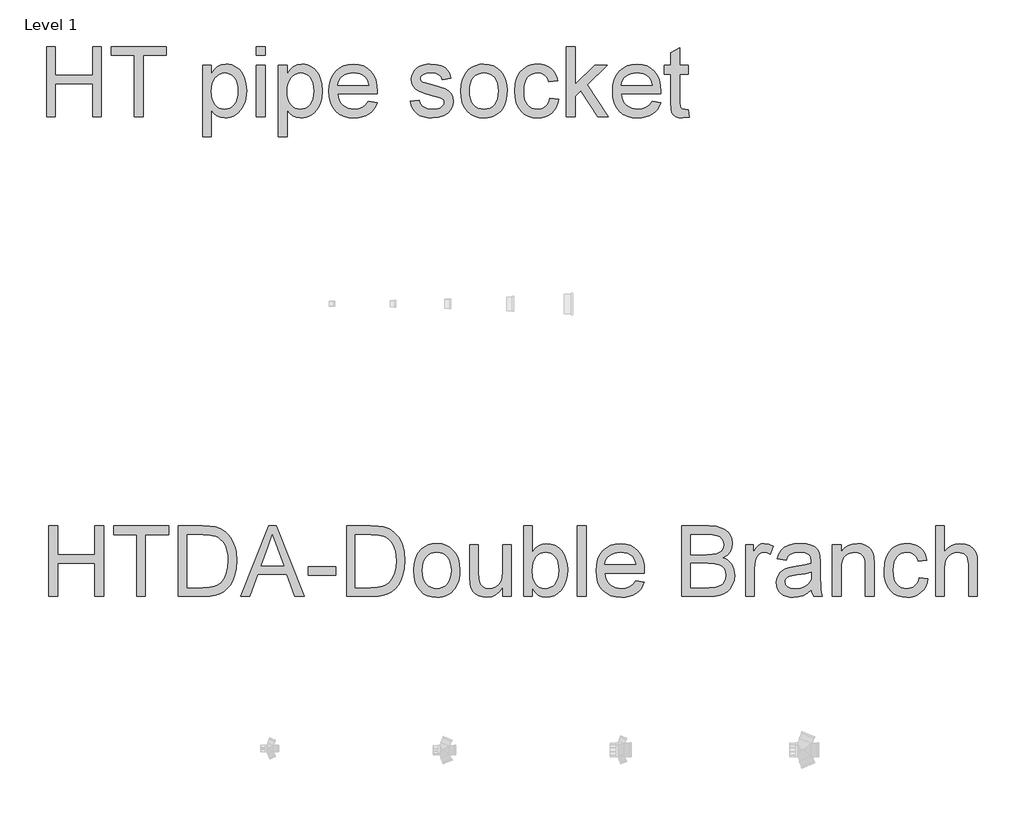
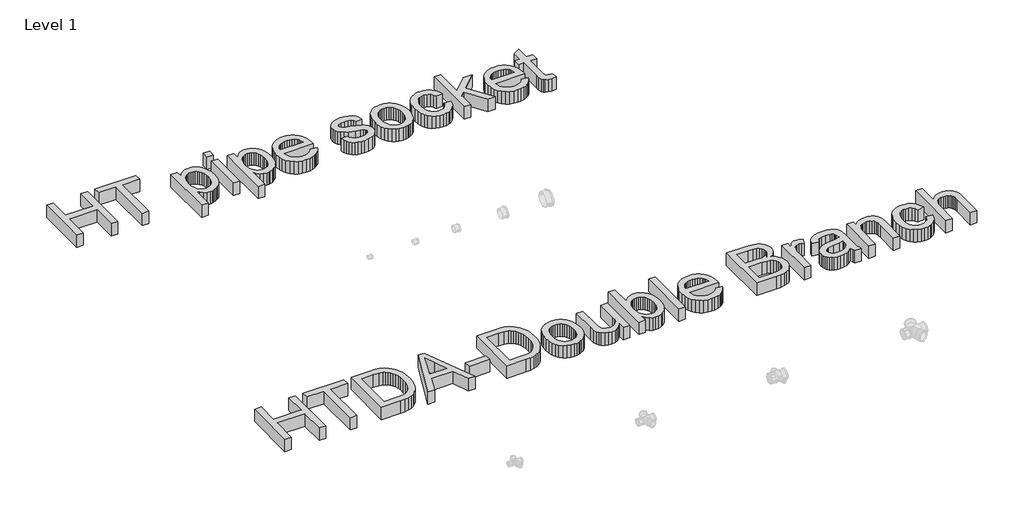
# One storey, part 14 of 29: 2 proxies.
"""IFC4 building model written with IfcOpenShell, lengths in millimetres."""

from ifc_helpers import new_model, si_unit, origin, origin_with_axes, place, context, project, spatial, polyline, outline, extrude, element, save

model = new_model("IFC4")

# Units and contexts
model_context = context("Model", 3, world=origin())
ifc_project = project(units=[si_unit("LENGTHUNIT", "METRE", prefix="MILLI")], contexts=[model_context])

# Site, building, storey
site = spatial("IfcSite", under=ifc_project)
building = spatial("IfcBuilding", under=site)
storey = spatial("IfcBuildingStorey", under=building, Name="Level 1", Elevation=0.0)

# Proxies
placement = place(None, origin())
element("IfcBuildingElementProxy", 1, Name="600mm Arial", ObjectType="600mm Arial", at=placement, inside=storey, context=model_context, shape_type="SweptSolid", body=[
    extrude(outline(polyline([(14780.4836109, -10119.7853058), (14780.4836109, -9517.0474449), (14855.8258435, -9517.0474449), (14855.8258435, -9761.9097009), (15176.0303321, -9761.9097009), (15176.0303321, -9517.0474449), (15251.3725647, -9517.0474449), (15251.3725647, -10119.7853058), (15176.0303321, -10119.7853058), (15176.0303321, -9837.2519335), (14855.8258435, -9837.2519335), (14855.8258435, -10119.7853058), (14780.4836109, -10119.7853058)])), origin_with_axes(), (0.0, 0.0, 1.0), 150.0),
    extrude(outline(polyline([(15533.905937, -10119.7853058), (15533.905937, -9592.3896775), (15336.1325764, -9592.3896775), (15336.1325764, -9517.0474449), (15807.0215302, -9517.0474449), (15807.0215302, -9592.3896775), (15609.2481696, -9592.3896775), (15609.2481696, -10119.7853058), (15533.905937, -10119.7853058)])), origin_with_axes(), (0.0, 0.0, 1.0), 150.0),
    extrude(outline(polyline([(16117.8082398, -10289.3053292), (16117.8082398, -9677.1496892), (16193.1504724, -9677.1496892), (16193.1504724, -9751.0203939), (16217.7249896, -9714.5816822), (16245.2425629, -9688.5540311), (16277.3218729, -9672.9374404), (16315.5816004, -9667.7319102), (16341.8575719, -9669.552926), (16366.5332567, -9675.0159737), (16389.6086548, -9684.121053), (16411.0837663, -9696.8681642), (16430.4895416, -9712.9262133), (16447.356931, -9731.9641065), (16461.6859347, -9753.9818439), (16473.4765527, -9778.9794255), (16489.2586903, -9834.4928186), (16494.5194028, -9895.0829832), (16488.5781086, -9959.5175146), (16481.1514908, -9989.182599), (16470.7542259, -10017.1462292), (16457.5288682, -10042.6772396), (16441.6179719, -10065.044465), (16423.0215371, -10084.2479051), (16401.7395636, -10100.2875601), (16378.8159168, -10112.9381022), (16355.2944617, -10121.9742037), (16331.1751984, -10127.3958646), (16306.4581269, -10129.2030849), (16271.822037, -10124.3654367), (16240.9015553, -10109.852492), (16214.4324458, -10087.9451192), (16193.1504724, -10060.9241866), (16193.1504724, -10289.3053292), (16117.8082398, -10289.3053292)]), holes=[polyline([(16193.1504724, -9901.9991647), (16195.1876189, -9938.3091176), (16201.2990586, -9969.542299), (16211.4847913, -9995.6987089), (16225.7448171, -10016.7783472), (16242.9111107, -10033.0019432), (16261.8156468, -10044.590226), (16282.4584252, -10051.5431957), (16304.8394461, -10053.8608523), (16327.5423637, -10051.4604223), (16348.5622212, -10044.2591322), (16367.8990186, -10032.2569821), (16385.5527558, -10015.453972), (16400.2634371, -9993.6109785), (16410.7710666, -9966.4888784), (16417.0756443, -9934.0876717), (16419.1771702, -9896.4073584), (16417.1262281, -9860.4101051), (16410.9734017, -9829.232106), (16400.7186911, -9802.8733611), (16386.3620962, -9781.3338703), (16369.1544159, -9764.5952395), (16350.3464489, -9752.6390746), (16329.9381952, -9745.4653757), (16307.9296549, -9743.0741428), (16285.9900924, -9745.6171271), (16265.3473139, -9753.2460799), (16246.0013195, -9765.9610014), (16227.9521091, -9783.7618914), (16212.726393, -9806.4096268), (16201.8508816, -9833.6650841), (16195.3255747, -9865.5282634), (16193.1504724, -9901.9991647)])]), origin_with_axes(), (0.0, 0.0, 1.0), 150.0),
    extrude(outline(polyline([(16579.2794145, -9592.3896775), (16579.2794145, -9517.0474449), (16654.6216471, -9517.0474449), (16654.6216471, -9592.3896775), (16579.2794145, -9592.3896775)])), origin_with_axes(), (0.0, 0.0, 1.0), 150.0),
    extrude(outline(polyline([(16579.2794145, -10119.7853058), (16579.2794145, -9677.1496892), (16654.6216471, -9677.1496892), (16654.6216471, -10119.7853058), (16579.2794145, -10119.7853058)])), origin_with_axes(), (0.0, 0.0, 1.0), 150.0),
    extrude(outline(polyline([(16767.634996, -10289.3053292), (16767.634996, -9677.1496892), (16842.9772286, -9677.1496892), (16842.9772286, -9751.0203939), (16867.5517459, -9714.5816822), (16895.0693192, -9688.5540311), (16927.1486291, -9672.9374404), (16965.4083566, -9667.7319102), (16991.6843281, -9669.552926), (17016.360013, -9675.0159737), (17039.4354111, -9684.121053), (17060.9105226, -9696.8681642), (17080.3162978, -9712.9262133), (17097.1836873, -9731.9641065), (17111.512691, -9753.9818439), (17123.303309, -9778.9794255), (17139.0854466, -9834.4928186), (17144.3461591, -9895.0829832), (17138.4048649, -9959.5175146), (17130.9782471, -9989.182599), (17120.5809822, -10017.1462292), (17107.3556245, -10042.6772396), (17091.4447282, -10065.044465), (17072.8482933, -10084.2479051), (17051.5663199, -10100.2875601), (17028.6426731, -10112.9381022), (17005.121218, -10121.9742037), (16981.0019547, -10127.3958646), (16956.2848832, -10129.2030849), (16921.6487933, -10124.3654367), (16890.7283116, -10109.852492), (16864.2592021, -10087.9451192), (16842.9772286, -10060.9241866), (16842.9772286, -10289.3053292), (16767.634996, -10289.3053292)]), holes=[polyline([(16842.9772286, -9901.9991647), (16845.0143752, -9938.3091176), (16851.1258148, -9969.542299), (16861.3115476, -9995.6987089), (16875.5715734, -10016.7783472), (16892.737867, -10033.0019432), (16911.642403, -10044.590226), (16932.2851815, -10051.5431957), (16954.6662024, -10053.8608523), (16977.36912, -10051.4604223), (16998.3889775, -10044.2591322), (17017.7257749, -10032.2569821), (17035.3795121, -10015.453972), (17050.0901934, -9993.6109785), (17060.5978229, -9966.4888784), (17066.9024006, -9934.0876717), (17069.0039265, -9896.4073584), (17066.9529844, -9860.4101051), (17060.800158, -9829.232106), (17050.5454474, -9802.8733611), (17036.1888525, -9781.3338703), (17018.9811722, -9764.5952395), (17000.1732052, -9752.6390746), (16979.7649515, -9745.4653757), (16957.7564111, -9743.0741428), (16935.8168487, -9745.6171271), (16915.1740702, -9753.2460799), (16895.8280758, -9765.9610014), (16877.7788654, -9783.7618914), (16862.5531493, -9806.4096268), (16851.6776378, -9833.6650841), (16845.1523309, -9865.5282634), (16842.9772286, -9901.9991647)])]), origin_with_axes(), (0.0, 0.0, 1.0), 150.0),
    extrude(outline(polyline([(17539.0099635, -9987.9363988), (17612.8806682, -9997.3541778), (17601.5545012, -10026.9410873), (17586.2644058, -10053.0147237), (17567.0103819, -10075.5750871), (17543.7924295, -10094.6221774), (17516.8496718, -10109.7513244), (17486.4212323, -10120.557858), (17452.5071109, -10127.0417782), (17415.1073075, -10129.2030849), (17368.358703, -10125.4736812), (17326.7052641, -10114.28547), (17290.1469908, -10095.6384514), (17258.6838832, -10069.5326253), (17233.382799, -10036.6945587), (17215.310596, -9997.8508185), (17204.4672742, -9953.0014048), (17200.8528336, -9902.1463175), (17204.5040624, -9849.5667833), (17215.4577488, -9803.222849), (17233.7138928, -9763.1145145), (17259.2724944, -9729.2417798), (17290.6528286, -9702.3312118), (17326.3741703, -9683.1093776), (17366.4365196, -9671.576277), (17410.8398764, -9667.7319102), (17453.813092, -9671.56708), (17492.6752262, -9683.0725894), (17527.4262792, -9702.2484384), (17558.0662509, -9729.094627), (17583.077628, -9762.8937853), (17600.9428974, -9802.9285434), (17611.662059, -9849.1989013), (17615.2351129, -9901.7048591), (17614.7936545, -9922.0119452), (17276.1950662, -9922.0119452), (17280.5590663, -9952.0771013), (17289.2364829, -9978.4082551), (17302.2273159, -10001.0054066), (17319.5315652, -10019.8685559), (17340.1927378, -10034.7401856), (17363.2543403, -10045.3627782), (17388.7163729, -10051.7363338), (17416.5788355, -10053.8608523), (17456.677973, -10049.9245149), (17490.4495402, -10038.1155029), (17517.893537, -10017.6980522), (17539.0099635, -9987.9363988)]), holes=[polyline([(17276.1950662, -9846.6697126), (17539.8928803, -9846.6697126), (17529.702549, -9806.8648807), (17520.9377605, -9791.2115018), (17509.7265567, -9778.3908143), (17489.1803473, -9762.9397705), (17465.8014465, -9751.9033107), (17439.5898543, -9745.2814347), (17410.5455708, -9743.0741428), (17384.0534686, -9744.8353778), (17359.7594614, -9750.119083), (17337.663549, -9758.9252582), (17317.7657316, -9771.2539036), (17301.0684876, -9786.534802), (17288.5742953, -9804.1977363), (17280.2831548, -9824.2427065), (17276.1950662, -9846.6697126)])]), origin_with_axes(), (0.0, 0.0, 1.0), 150.0),
    extrude(outline(polyline([(17897.7684852, -9987.9363988), (17973.1107178, -9978.5186197), (17977.6632575, -9995.6987089), (17984.9933063, -10010.7450825), (17995.1008641, -10023.6577405), (18007.985931, -10034.436683), (18023.6852951, -10042.934757), (18042.2357447, -10049.00481), (18087.8899003, -10053.8608523), (18132.9922329, -10049.4094802), (18150.52181, -10043.845265), (18164.7036609, -10036.0553637), (18183.4656427, -10016.7047708), (18188.1561381, -10005.870646), (18189.7196366, -9994.2639691), (18188.1469411, -9984.0920319), (18183.4288545, -9975.0605289), (18164.5565081, -9960.4188255), (18136.3399591, -9950.8538936), (18087.0069835, -9938.934517), (18018.2498386, -9919.0504952), (17973.5521762, -9902.0727411), (17944.8389865, -9883.5498826), (17924.0352597, -9859.0305477), (17911.3985131, -9830.0782346), (17907.1862643, -9798.256442), (17910.5707787, -9769.0650057), (17920.7243217, -9742.1176496), (17936.7271885, -9718.4812314), (17957.659674, -9699.2226089), (17978.4634009, -9687.1008972), (18005.5579098, -9676.92896), (18036.8830617, -9670.0311726), (18070.3787174, -9667.7319102), (18119.4173873, -9671.4291242), (18162.0549106, -9682.5207664), (18196.3415125, -9699.9215847), (18220.3274186, -9722.5463274), (18236.2199208, -9752.0688576), (18246.226311, -9790.1630382), (18170.8840784, -9799.5808172), (18161.3743289, -9775.8708226), (18142.5571648, -9758.0101518), (18114.2486453, -9746.808145), (18076.2648293, -9743.0741428), (18033.0019066, -9746.6425981), (18004.1599582, -9757.3479642), (17987.9363622, -9772.799008), (17982.5284969, -9790.6044965), (17984.7725771, -9802.1927794), (17991.5048176, -9812.5302635), (18003.019524, -9821.7641015), (18019.611002, -9829.1585296), (18084.505386, -9845.1981846), (18195.0907137, -9880.662009), (18224.3005441, -9897.6213689), (18246.4470402, -9920.8347228), (18260.408162, -9950.3756471), (18265.0618692, -9986.317718), (18259.5988216, -10023.4737995), (18243.2096787, -10058.422589), (18216.5198399, -10088.4233657), (18180.1547047, -10110.7354088), (18136.2295945, -10124.5861659), (18086.8598307, -10129.2030849), (18046.3100378, -10126.9773988), (18010.8921987, -10120.3003406), (17980.6063135, -10109.1719103), (17955.4523821, -10093.5921078), (17934.9061726, -10073.6345095), (17918.4434533, -10049.372692), (17906.0642242, -10020.806655), (17897.7684852, -9987.9363988)])), origin_with_axes(), (0.0, 0.0, 1.0), 150.0),
    extrude(outline(polyline([(18330.9863227, -9898.4674975), (18335.0606158, -9841.1422856), (18347.2834951, -9791.7449307), (18367.6549606, -9750.2754328), (18396.1750123, -9716.7337919), (18424.888202, -9695.2954686), (18456.5812359, -9679.9823806), (18491.2541139, -9670.7945278), (18528.9068361, -9667.7319102), (18570.4729031, -9671.4613139), (18608.0566474, -9682.6495251), (18641.6580691, -9701.2965437), (18671.2771683, -9727.4023698), (18695.4516139, -9760.0840865), (18712.719075, -9798.4587771), (18723.0795517, -9842.5264416), (18726.533044, -9892.28708), (18725.0063337, -9932.6161437), (18720.4262028, -9968.4018648), (18712.7926514, -9999.6442433), (18702.1056795, -10026.3432791), (18688.4986442, -10049.4048816), (18672.1049028, -10069.7349604), (18652.9244552, -10087.3335153), (18630.9573016, -10102.2005465), (18607.0587675, -10114.014157), (18582.0841785, -10122.4524503), (18556.0335348, -10127.5154263), (18528.9068361, -10129.2030849), (18486.7337639, -10125.4874768), (18448.8005317, -10114.3406523), (18415.1071395, -10095.7626115), (18385.6535872, -10069.7533545), (18361.736659, -10036.7543395), (18344.6531389, -9997.207025), (18334.4030268, -9951.111411), (18330.9863227, -9898.4674975)]), holes=[polyline([(18406.3285554, -9898.3203447), (18408.5082562, -9934.8648224), (18415.0473586, -9966.5072725), (18425.9458627, -9993.2476951), (18441.2037685, -10015.08609), (18459.7634151, -10032.0500485), (18480.567142, -10044.1671617), (18503.614949, -10051.4374297), (18528.9068361, -10053.8608523), (18554.0699646, -10051.4236341), (18577.0258011, -10044.1119794), (18597.7743456, -10031.9258883), (18616.3155982, -10014.8653608), (18631.5735039, -9992.8108352), (18642.4720081, -9965.6427499), (18649.0111105, -9933.3611048), (18651.1908113, -9895.9659), (18648.9973149, -9860.5802506), (18642.4168258, -9829.7655349), (18631.4493438, -9803.5217531), (18616.094869, -9781.8489051), (18597.4846386, -9764.8849466), (18576.7498896, -9752.7678333), (18553.8906221, -9745.4975654), (18528.9068361, -9743.0741428), (18503.614949, -9745.4883684), (18480.567142, -9752.7310451), (18459.7634151, -9764.8021731), (18441.2037685, -9781.7017523), (18425.9458627, -9803.4757679), (18415.0473586, -9830.1702051), (18408.5082562, -9861.7850641), (18406.3285554, -9898.3203447)])]), origin_with_axes(), (0.0, 0.0, 1.0), 150.0),
    extrude(outline(polyline([(19093.8264279, -9959.6830615), (19169.1686605, -9969.1008406), (19160.9740891, -10004.6520369), (19148.1625986, -10036.110546), (19130.7341891, -10063.4763679), (19108.6888605, -10086.7495027), (19082.955515, -10105.3229449), (19054.4630545, -10118.5896893), (19023.211479, -10126.549736), (18989.2007885, -10129.2030849), (18946.9449428, -10125.5012723), (18909.0576959, -10114.3958346), (18875.5390476, -10095.8867717), (18846.388998, -10069.9740837), (18822.7939665, -10037.1452141), (18805.9403726, -9997.8876067), (18795.8282163, -9952.2012615), (18792.4574975, -9900.0861783), (18798.2148507, -9833.0396847), (18805.4115422, -9802.8687626), (18815.4869104, -9774.9327236), (18828.509933, -9749.7925877), (18844.549588, -9728.0093751), (18863.6058754, -9709.5830856), (18885.6787951, -9694.5137194), (18909.7704672, -9682.7966779), (18934.8830119, -9674.4273625), (18961.0164292, -9669.4057732), (18988.1707189, -9667.7319102), (19021.5973967, -9670.0311726), (19051.8326982, -9676.92896), (19078.8766234, -9688.4252724), (19102.7291722, -9704.5201097), (19122.9856746, -9724.8455899), (19139.2414602, -9749.0338311), (19151.4965292, -9777.0848332), (19159.7508815, -9808.9985963), (19084.4086489, -9818.4163754), (19070.7418327, -9785.5461191), (19049.4598593, -9761.9832773), (19021.739951, -9747.8014264), (18988.7593301, -9743.0741428), (18963.1593418, -9745.4009964), (18940.0701481, -9752.3815573), (18919.4917489, -9764.0158253), (18901.4241445, -9780.3038007), (18886.7134632, -9801.6225623), (18876.2058337, -9828.3491893), (18869.901256, -9860.4836815), (18867.7997301, -9898.0260391), (18869.8552707, -9936.1340153), (18876.0218927, -9968.6409881), (18886.2995959, -9995.5469575), (18900.6883805, -10016.8519236), (18918.3973, -10033.0433299), (18938.6354083, -10044.6086201), (18961.4027052, -10051.5477943), (18986.6991909, -10053.8608523), (19025.7130765, -10048.085105), (19042.5850645, -10040.8654208), (19057.700416, -10030.757863), (19070.6360667, -10017.6520669), (19080.9689522, -10001.437668), (19088.6990726, -9982.1146662), (19093.8264279, -9959.6830615)])), origin_with_axes(), (0.0, 0.0, 1.0), 150.0),
    extrude(outline(polyline([(19235.0931141, -10119.7853058), (19235.0931141, -9517.0474449), (19310.4353467, -9517.0474449), (19310.4353467, -9840.9307535), (19479.3667589, -9677.1496892), (19583.5509399, -9677.1496892), (19412.5593886, -9842.9908927), (19592.968719, -10119.7853058), (19504.9713457, -10119.7853058), (19358.5543117, -9895.3772888), (19310.4353467, -9942.0247258), (19310.4353467, -10119.7853058), (19235.0931141, -10119.7853058)])), origin_with_axes(), (0.0, 0.0, 1.0), 150.0),
    extrude(outline(polyline([(19968.7969653, -9987.9363988), (20042.6676699, -9997.3541778), (20031.341503, -10026.9410873), (20016.0514075, -10053.0147237), (19996.7973836, -10075.5750871), (19973.5794312, -10094.6221774), (19946.6366736, -10109.7513244), (19916.2082341, -10120.557858), (19882.2941126, -10127.0417782), (19844.8943093, -10129.2030849), (19798.1457048, -10125.4736812), (19756.4922658, -10114.28547), (19719.9339926, -10095.6384514), (19688.4708849, -10069.5326253), (19663.1698007, -10036.6945587), (19645.0975977, -9997.8508185), (19634.2542759, -9953.0014048), (19630.6398353, -9902.1463175), (19634.2910641, -9849.5667833), (19645.2447505, -9803.222849), (19663.5008945, -9763.1145145), (19689.0594961, -9729.2417798), (19720.4398303, -9702.3312118), (19756.1611721, -9683.1093776), (19796.2235213, -9671.576277), (19840.6268781, -9667.7319102), (19883.6000937, -9671.56708), (19922.462228, -9683.0725894), (19957.2132809, -9702.2484384), (19987.8532526, -9729.094627), (20012.8646298, -9762.8937853), (20030.7298992, -9802.9285434), (20041.4490608, -9849.1989013), (20045.0221147, -9901.7048591), (20044.5806563, -9922.0119452), (19705.9820679, -9922.0119452), (19710.3460681, -9952.0771013), (19719.0234846, -9978.4082551), (19732.0143176, -10001.0054066), (19749.3185669, -10019.8685559), (19769.9797395, -10034.7401856), (19793.0413421, -10045.3627782), (19818.5033747, -10051.7363338), (19846.3658373, -10053.8608523), (19886.4649747, -10049.9245149), (19920.2365419, -10038.1155029), (19947.6805387, -10017.6980522), (19968.7969653, -9987.9363988)]), holes=[polyline([(19705.9820679, -9846.6697126), (19969.6798821, -9846.6697126), (19959.4895508, -9806.8648807), (19950.7247623, -9791.2115018), (19939.5135584, -9778.3908143), (19918.967349, -9762.9397705), (19895.5884482, -9751.9033107), (19869.3768561, -9745.2814347), (19840.3325725, -9743.0741428), (19813.8404704, -9744.8353778), (19789.5464631, -9750.119083), (19767.4505508, -9758.9252582), (19747.5527334, -9771.2539036), (19730.8554893, -9786.534802), (19718.361297, -9804.1977363), (19710.0701566, -9824.2427065), (19705.9820679, -9846.6697126)])]), origin_with_axes(), (0.0, 0.0, 1.0), 150.0),
    extrude(outline(polyline([(20280.4665916, -10056.9510611), (20289.8843707, -10121.9925978), (20233.524849, -10129.2030849), (20197.3620489, -10126.076088), (20170.3962986, -10116.6950971), (20151.3400113, -10102.2373347), (20138.9055998, -10083.8800231), (20132.0629947, -10052.3525361), (20129.7821264, -9998.3842474), (20129.7821264, -9752.4919218), (20073.2754519, -9752.4919218), (20073.2754519, -9677.1496892), (20129.7821264, -9677.1496892), (20129.7821264, -9569.5809938), (20205.124359, -9525.2880016), (20205.124359, -9677.1496892), (20280.4665916, -9677.1496892), (20280.4665916, -9752.4919218), (20205.124359, -9752.4919218), (20205.124359, -9996.1769555), (20209.0974845, -10035.0252941), (20221.9733543, -10048.7840808), (20232.8442673, -10052.5916594), (20247.6515176, -10053.8608523), (20280.4665916, -10056.9510611)])), origin_with_axes(), (0.0, 0.0, 1.0), 150.0),
])
element("IfcBuildingElementProxy", 2, Name="600mm Arial", ObjectType="600mm Arial", at=placement, inside=storey, context=model_context, shape_type="SweptSolid", body=[
    extrude(outline(polyline([(14799.5162473, -14228.0486883), (14799.5162473, -13625.3108274), (14874.8584799, -13625.3108274), (14874.8584799, -13870.1730834), (15195.0629685, -13870.1730834), (15195.0629685, -13625.3108274), (15270.4052012, -13625.3108274), (15270.4052012, -14228.0486883), (15195.0629685, -14228.0486883), (15195.0629685, -13945.515316), (14874.8584799, -13945.515316), (14874.8584799, -14228.0486883), (14799.5162473, -14228.0486883)])), origin_with_axes(), (0.0, 0.0, 1.0), 150.0),
    extrude(outline(polyline([(15552.9385734, -14228.0486883), (15552.9385734, -13700.65306), (15355.1652128, -13700.65306), (15355.1652128, -13625.3108274), (15826.0541667, -13625.3108274), (15826.0541667, -13700.65306), (15628.2808061, -13700.65306), (15628.2808061, -14228.0486883), (15552.9385734, -14228.0486883)])), origin_with_axes(), (0.0, 0.0, 1.0), 150.0),
    extrude(outline(polyline([(15910.8141784, -14228.0486883), (15910.8141784, -13625.3108274), (16118.741082, -13625.3108274), (16180.876351, -13627.4813312), (16226.3097774, -13633.9928425), (16274.355166, -13650.7314733), (16314.8957619, -13677.1086123), (16337.235396, -13698.6664972), (16356.5767919, -13723.0202853), (16372.9199495, -13750.1699766), (16386.2648689, -13780.115571), (16396.6299441, -13812.581157), (16404.0335693, -13847.2908233), (16409.9564694, -13923.4423963), (16405.9465557, -13988.1344451), (16393.9168144, -14045.0641839), (16375.5962911, -14093.5326368), (16352.714031, -14132.8408279), (16326.3736801, -14163.8716742), (16297.6788845, -14187.5080924), (16264.7350518, -14205.0376695), (16225.6475898, -14217.7479924), (16180.3429221, -14225.4735143), (16128.7474723, -14228.0486883), (15910.8141784, -14228.0486883)]), holes=[polyline([(15986.156411, -14152.7064557), (16119.476846, -14152.7064557), (16174.6223571, -14149.9841289), (16216.4505399, -14141.8171486), (16248.0148151, -14128.6837614), (16272.3686032, -14111.0622138), (16298.5434072, -14078.449475), (16318.2066998, -14036.235016), (16330.5123526, -13984.234896), (16334.6142368, -13922.2651739), (16332.6046814, -13878.5240047), (16326.5760152, -13840.1539126), (16316.5282382, -13807.1548976), (16302.4613504, -13779.5269598), (16285.515786, -13756.6446997), (16266.8319792, -13737.8827179), (16246.4099299, -13723.2410145), (16224.2496382, -13712.7195895), (16180.9131392, -13703.6696924), (16117.4167068, -13700.65306), (15986.156411, -13700.65306), (15986.156411, -14152.7064557)])]), origin_with_axes(), (0.0, 0.0, 1.0), 150.0),
    extrude(outline(polyline([(16443.3601546, -14228.0486883), (16683.9549794, -13625.3108274), (16748.1135994, -13625.3108274), (16988.7084242, -14228.0486883), (16909.0987605, -14228.0486883), (16840.0840982, -14039.6931068), (16591.8373278, -14039.6931068), (16522.9698183, -14228.0486883), (16443.3601546, -14228.0486883)]), holes=[polyline([(16619.5020539, -13964.3508742), (16812.5665249, -13964.3508742), (16758.2671424, -13816.1680065), (16716.0342894, -13700.65306), (16678.5103259, -13803.2185603), (16619.5020539, -13964.3508742)])]), origin_with_axes(), (0.0, 0.0, 1.0), 150.0),
    extrude(outline(polyline([(17022.1121094, -14049.1108858), (17022.1121094, -13973.7686532), (17257.5565863, -13973.7686532), (17257.5565863, -14049.1108858), (17022.1121094, -14049.1108858)])), origin_with_axes(), (0.0, 0.0, 1.0), 150.0),
    extrude(outline(polyline([(17351.7343771, -14228.0486883), (17351.7343771, -13625.3108274), (17559.6612807, -13625.3108274), (17621.7965497, -13627.4813312), (17667.2299761, -13633.9928425), (17715.2753647, -13650.7314733), (17755.8159606, -13677.1086123), (17778.1555947, -13698.6664972), (17797.4969906, -13723.0202853), (17813.8401483, -13750.1699766), (17827.1850676, -13780.115571), (17837.5501428, -13812.581157), (17844.953768, -13847.2908233), (17850.8766681, -13923.4423963), (17846.8667544, -13988.1344451), (17834.8370131, -14045.0641839), (17816.5164898, -14093.5326368), (17793.6342297, -14132.8408279), (17767.2938788, -14163.8716742), (17738.5990832, -14187.5080924), (17705.6552505, -14205.0376695), (17666.5677885, -14217.7479924), (17621.2631208, -14225.4735143), (17569.667671, -14228.0486883), (17351.7343771, -14228.0486883)]), holes=[polyline([(17427.0766097, -14152.7064557), (17560.3970447, -14152.7064557), (17615.5425558, -14149.9841289), (17657.3707387, -14141.8171486), (17688.9350138, -14128.6837614), (17713.2888019, -14111.0622138), (17739.4636059, -14078.449475), (17759.1268985, -14036.235016), (17771.4325513, -13984.234896), (17775.5344355, -13922.2651739), (17773.5248801, -13878.5240047), (17767.4962139, -13840.1539126), (17757.4484369, -13807.1548976), (17743.3815491, -13779.5269598), (17726.4359847, -13756.6446997), (17707.7521779, -13737.8827179), (17687.3301286, -13723.2410145), (17665.169837, -13712.7195895), (17621.8333379, -13703.6696924), (17558.3369056, -13700.65306), (17427.0766097, -13700.65306), (17427.0766097, -14152.7064557)])]), origin_with_axes(), (0.0, 0.0, 1.0), 150.0),
    extrude(outline(polyline([(17926.2189007, -14006.73088), (17930.2931938, -13949.4056681), (17942.5160731, -13900.0083132), (17962.8875386, -13858.5388153), (17991.4075903, -13824.9971744), (18020.12078, -13803.5588511), (18051.8138139, -13788.2457631), (18086.4866919, -13779.0579102), (18124.1394141, -13775.9952926), (18165.7054811, -13779.7246963), (18203.2892254, -13790.9129075), (18236.8906471, -13809.5599262), (18266.5097463, -13835.6657522), (18290.6841919, -13868.347469), (18307.951653, -13906.7221596), (18318.3121297, -13950.7898241), (18321.7656219, -14000.5504625), (18320.2389117, -14040.8795262), (18315.6587808, -14076.6652473), (18308.0252294, -14107.9076257), (18297.3382575, -14134.6066615), (18283.7312222, -14157.6682641), (18267.3374808, -14177.9983429), (18248.1570332, -14195.5968978), (18226.1898796, -14210.4639289), (18202.2913455, -14222.2775395), (18177.3167565, -14230.7158328), (18151.2661128, -14235.7788087), (18124.1394141, -14237.4664674), (18081.9663419, -14233.7508592), (18044.0331097, -14222.6040348), (18010.3397175, -14204.025994), (17980.8861652, -14178.016737), (17956.969237, -14145.017722), (17939.8857169, -14105.4704075), (17929.6356048, -14059.3747935), (17926.2189007, -14006.73088)]), holes=[polyline([(18001.5611333, -14006.5837272), (18003.7408342, -14043.1282049), (18010.2799366, -14074.770655), (18021.1784407, -14101.5110775), (18036.4363465, -14123.3494725), (18054.9959931, -14140.313431), (18075.79972, -14152.4305442), (18098.847527, -14159.7008121), (18124.1394141, -14162.1242348), (18149.3025426, -14159.6870165), (18172.2583791, -14152.3753619), (18193.0069236, -14140.1892708), (18211.5481762, -14123.1287433), (18226.8060819, -14101.0742177), (18237.704586, -14073.9061323), (18244.2436885, -14041.6244872), (18246.4233893, -14004.2292824), (18244.2298929, -13968.843633), (18237.6494037, -13938.0289174), (18226.6819218, -13911.7851356), (18211.327447, -13890.1122875), (18192.7172166, -13873.148329), (18171.9824676, -13861.0312158), (18149.1232001, -13853.7609479), (18124.1394141, -13851.3375252), (18098.847527, -13853.7517508), (18075.79972, -13860.9944276), (18054.9959931, -13873.0655556), (18036.4363465, -13889.9651347), (18021.1784407, -13911.7391503), (18010.2799366, -13938.4335876), (18003.7408342, -13970.0484466), (18001.5611333, -14006.5837272)])]), origin_with_axes(), (0.0, 0.0, 1.0), 150.0),
    extrude(outline(polyline([(18689.0590059, -14228.0486883), (18689.0590059, -14151.9706917), (18661.7989501, -14189.3750936), (18630.0507339, -14216.0925235), (18593.8143574, -14232.1229814), (18553.0898205, -14237.4664674), (18516.3935915, -14233.714071), (18482.2357482, -14222.456882), (18453.5777408, -14205.5343102), (18433.3810193, -14184.7857657), (18419.7877796, -14159.585849), (18410.9402176, -14129.3091608), (18406.5256336, -14059.2644289), (18406.5256336, -13785.4130717), (18481.8678662, -13785.4130717), (18481.8678662, -14023.8006046), (18483.0083004, -14071.4781111), (18486.429603, -14100.6143652), (18497.4108805, -14126.2373461), (18516.2280446, -14145.7166978), (18541.6302964, -14158.0223505), (18572.3668371, -14162.1242348), (18604.8692113, -14157.93038), (18635.2746582, -14145.3488158), (18660.3458162, -14125.5383703), (18676.8453237, -14099.657872), (18686.0055854, -14064.2124417), (18689.0590059, -14015.7072007), (18689.0590059, -13785.4130717), (18764.4012385, -13785.4130717), (18764.4012385, -14228.0486883), (18689.0590059, -14228.0486883)])), origin_with_axes(), (0.0, 0.0, 1.0), 150.0),
    extrude(outline(polyline([(18943.339041, -14228.0486883), (18867.9968084, -14228.0486883), (18867.9968084, -13625.3108274), (18943.339041, -13625.3108274), (18943.339041, -13848.8359277), (18968.1158934, -13816.9681498), (18996.0933191, -13794.2054514), (19027.2713182, -13780.5478323), (19061.6498906, -13775.9952926), (19100.4614411, -13780.0971769), (19137.1392761, -13792.4028296), (19169.586468, -13812.1396986), (19195.7060897, -13838.5352318), (19216.1787227, -13871.3319117), (19231.6849488, -13910.2722209), (19241.4522158, -13953.7374786), (19244.7079714, -14000.1090041), (19241.3372527, -14053.6174403), (19231.2250963, -14100.6879416), (19214.3715024, -14141.3205079), (19190.776471, -14175.5151394), (19162.4541558, -14202.6188454), (19131.418711, -14221.9786354), (19097.6701365, -14233.5945094), (19061.2084323, -14237.4664674), (19025.6986227, -14232.4724693), (18994.2171209, -14217.490475), (18966.763927, -14192.5204846), (18943.339041, -14157.562498), (18943.339041, -14228.0486883)]), holes=[polyline([(18943.339041, -14003.6406712), (18948.4893889, -14066.474916), (18954.9273238, -14090.2768811), (18963.9404327, -14109.0020747), (18982.1965767, -14132.2430197), (19003.4141708, -14148.8436947), (19027.5932149, -14158.8040998), (19054.7337091, -14162.1242348), (19077.2664813, -14159.6778195), (19098.217361, -14152.3385737), (19117.586348, -14140.1064973), (19135.3734425, -14122.9815905), (19150.2450721, -14101.0098383), (19160.8676647, -14074.2372261), (19167.2412203, -14042.6637539), (19169.3657388, -14006.2894216), (19167.3285923, -13969.2253106), (19161.2171526, -13937.3483357), (19151.0314199, -13910.658497), (19136.7713941, -13889.1557943), (19119.6234946, -13872.6103016), (19100.7741408, -13860.7920925), (19080.2233329, -13853.7011671), (19057.9710707, -13851.3375252), (19035.4382985, -13853.7839405), (19014.4874189, -13861.1231863), (18995.1184318, -13873.3552626), (18977.3313374, -13890.4801695), (18962.4597077, -13912.2311925), (18951.8371151, -13938.3416171), (18945.4635595, -13968.8114433), (18943.339041, -14003.6406712)])]), origin_with_axes(), (0.0, 0.0, 1.0), 150.0),
    extrude(outline(polyline([(19329.4679831, -14228.0486883), (19329.4679831, -13625.3108274), (19404.8102157, -13625.3108274), (19404.8102157, -14228.0486883), (19329.4679831, -14228.0486883)])), origin_with_axes(), (0.0, 0.0, 1.0), 150.0),
    extrude(outline(polyline([(19827.7273574, -14096.1997812), (19901.598062, -14105.6175603), (19890.2718951, -14135.2044698), (19874.9817997, -14161.2781062), (19855.7277758, -14183.8384695), (19832.5098233, -14202.8855598), (19805.5670657, -14218.0147069), (19775.1386262, -14228.8212405), (19741.2245048, -14235.3051606), (19703.8247014, -14237.4664674), (19657.0760969, -14233.7370636), (19615.422658, -14222.5488525), (19578.8643847, -14203.9018338), (19547.4012771, -14177.7960078), (19522.1001929, -14144.9579412), (19504.0279898, -14106.114201), (19493.184668, -14061.2647873), (19489.5702274, -14010.4096999), (19493.2214562, -13957.8301658), (19504.1751426, -13911.4862314), (19522.4312867, -13871.3778969), (19547.9898883, -13837.5051622), (19579.3702225, -13810.5945943), (19615.0915642, -13791.37276), (19655.1539135, -13779.8396595), (19699.5572703, -13775.9952926), (19742.5304858, -13779.8304624), (19781.3926201, -13791.3359718), (19816.1436731, -13810.5118208), (19846.7836448, -13837.3580094), (19871.7950219, -13871.1571677), (19889.6602913, -13911.1919258), (19900.3794529, -13957.4622838), (19903.9525068, -14009.9682416), (19903.5110484, -14030.2753277), (19564.91246, -14030.2753277), (19569.2764602, -14060.3404837), (19577.9538768, -14086.6716375), (19590.9447097, -14109.2687891), (19608.2489591, -14128.1319384), (19628.9101316, -14143.0035681), (19651.9717342, -14153.6261607), (19677.4337668, -14159.9997162), (19705.2962294, -14162.1242348), (19745.3953669, -14158.1878974), (19779.166934, -14146.3788854), (19806.6109309, -14125.9614346), (19827.7273574, -14096.1997812)]), holes=[polyline([(19564.91246, -13954.9330951), (19828.6102742, -13954.9330951), (19818.4199429, -13915.1282632), (19809.6551544, -13899.4748843), (19798.4439506, -13886.6541968), (19777.8977412, -13871.203153), (19754.5188404, -13860.1666931), (19728.3072482, -13853.5448172), (19699.2629647, -13851.3375252), (19672.7708625, -13853.0987603), (19648.4768553, -13858.3824654), (19626.3809429, -13867.1886407), (19606.4831255, -13879.5172861), (19589.7858814, -13894.7981844), (19577.2916892, -13912.4611187), (19569.0005487, -13932.5060889), (19564.91246, -13954.9330951)])]), origin_with_axes(), (0.0, 0.0, 1.0), 150.0),
    extrude(outline(polyline([(20224.1569954, -14228.0486883), (20224.1569954, -13625.3108274), (20454.1568188, -13625.3108274), (20517.4141279, -13629.7438054), (20566.8022857, -13643.0427396), (20586.8794456, -13653.0997136), (20604.657343, -13665.5387236), (20620.135978, -13680.3597695), (20633.3153504, -13697.5628512), (20651.3599623, -13735.2339676), (20657.3748329, -13774.6709174), (20652.3164555, -13810.9624763), (20637.1413232, -13845.0835313), (20611.7390714, -13874.9371552), (20575.9993356, -13898.4264206), (20598.7390414, -13908.1201112), (20618.6920411, -13920.7200695), (20635.8583347, -13936.2262956), (20650.2379222, -13954.6387895), (20661.6008773, -13975.3965311), (20669.7172739, -13997.9385003), (20674.5871118, -14022.2646972), (20676.2103911, -14048.3751219), (20671.777413, -14090.4056398), (20658.4784789, -14129.3827372), (20638.6312453, -14162.528905), (20614.5533687, -14187.066634), (20585.0676268, -14204.8353344), (20548.9967971, -14217.674416), (20505.1636574, -14225.4551202), (20452.3909852, -14228.0486883), (20224.1569954, -14228.0486883)]), holes=[polyline([(20299.499228, -13870.1730834), (20437.0870942, -13870.1730834), (20485.2060592, -13868.5544026), (20517.432522, -13863.6983603), (20545.5571005, -13852.5331417), (20565.7722161, -13835.812905), (20577.9675043, -13813.7951676), (20582.0326003, -13786.7374469), (20578.2434158, -13760.4706724), (20566.8758621, -13737.5884123), (20548.4449742, -13719.7277415), (20523.4657867, -13708.5257347), (20485.1324828, -13702.6212287), (20426.6392456, -13700.65306), (20299.499228, -13700.65306), (20299.499228, -13870.1730834)]), polyline([(20299.499228, -14152.7064557), (20454.009666, -14152.7064557), (20509.9277293, -14149.7633997), (20535.881804, -14143.2334943), (20557.2373538, -14133.3558627), (20574.601384, -14119.2108), (20588.5808998, -14099.8786012), (20597.7963438, -14076.2237889), (20600.8681585, -14049.1108858), (20597.2629149, -14017.6201871), (20586.4471843, -13990.5440722), (20567.5564438, -13969.3724634), (20539.7261709, -13955.5952827), (20500.3076151, -13948.0353077), (20446.6520261, -13945.515316), (20299.499228, -13945.515316), (20299.499228, -14152.7064557)])]), origin_with_axes(), (0.0, 0.0, 1.0), 150.0),
    extrude(outline(polyline([(20770.3881818, -14228.0486883), (20770.3881818, -13785.4130717), (20836.3126354, -13785.4130717), (20836.3126354, -13850.8960668), (20860.6664235, -13812.9306449), (20883.1072252, -13790.5634196), (20905.6216033, -13779.6373244), (20930.1961205, -13775.9952926), (20967.7200841, -13781.8078281), (21005.8326588, -13799.2454347), (20980.6695303, -13866.788569), (20954.1820266, -13855.2002862), (20927.694523, -13851.3375252), (20905.198539, -13855.0531334), (20885.0937879, -13866.1999578), (20868.8517979, -13883.93187), (20857.9440967, -13907.4027413), (20848.783835, -13949.4884415), (20845.7304145, -13995.4001145), (20845.7304145, -14228.0486883), (20770.3881818, -14228.0486883)])), origin_with_axes(), (0.0, 0.0, 1.0), 150.0),
    extrude(outline(polyline([(21335.4549264, -14171.5420138), (21299.4576732, -14202.4073132), (21262.3935622, -14222.6040348), (21223.4164648, -14233.7508592), (21181.6802525, -14237.4664674), (21148.134013, -14235.2315843), (21118.717249, -14228.5269349), (21093.4299603, -14217.3525193), (21072.2721471, -14201.7083374), (21055.565706, -14182.5876707), (21043.6325338, -14160.9838006), (21036.4726304, -14136.8967269), (21034.085996, -14110.3264498), (21037.6912395, -14079.0932684), (21048.5069702, -14050.7295666), (21065.1904187, -14026.4493549), (21086.3988157, -14007.466644), (21111.3228209, -13993.1192462), (21139.1530938, -13982.7449739), (21204.3417834, -13971.4142085), (21281.3762731, -13959.4948318), (21335.013468, -13945.515316), (21335.4549264, -13928.739897), (21330.2677903, -13895.1154827), (21323.7838701, -13882.6626771), (21314.7063819, -13873.1161393), (21299.0162148, -13863.5879957), (21279.9047452, -13856.7821788), (21231.4178982, -13851.3375252), (21186.5362948, -13854.9611629), (21155.1927488, -13865.8320758), (21133.8188049, -13885.9368269), (21118.8460077, -13917.2619788), (21043.5037751, -13907.8441997), (21056.58198, -13866.6414162), (21076.0981198, -13834.2678007), (21103.8732105, -13809.5093424), (21141.7282678, -13791.1520308), (21188.0262169, -13779.7844772), (21241.1299829, -13775.9952926), (21292.0632451, -13779.3430188), (21332.4382941, -13789.3861972), (21362.8805292, -13804.4877531), (21384.0153498, -13823.0106116), (21398.0316538, -13845.9112658), (21407.1183391, -13874.1462089), (21410.797159, -13940.0706625), (21410.797159, -14033.8069948), (21414.6231318, -14164.6994087), (21420.2885145, -14197.0546302), (21429.6327172, -14228.0486883), (21354.2904846, -14228.0486883), (21342.2239551, -14201.8554902), (21335.4549264, -14171.5420138)]), holes=[polyline([(21335.4549264, -14020.8575486), (21284.8343639, -14033.4023246), (21213.9067152, -14043.9605379), (21149.0859077, -14056.1742201), (21132.2185182, -14064.5251414), (21119.7289245, -14076.0398479), (21112.0034026, -14089.8354227), (21109.4282286, -14105.0289491), (21115.038429, -14127.4329626), (21131.8690303, -14145.7902742), (21159.5521504, -14158.0407446), (21197.7199074, -14162.1242348), (21238.1869269, -14157.6176803), (21273.9450568, -14144.098017), (21302.9341581, -14124.177207), (21323.0940914, -14100.4672124), (21332.0336239, -14076.0398479), (21335.013468, -14042.1947043), (21335.4549264, -14020.8575486)])]), origin_with_axes(), (0.0, 0.0, 1.0), 150.0),
    extrude(outline(polyline([(21514.3927289, -14228.0486883), (21514.3927289, -13785.4130717), (21589.7349615, -13785.4130717), (21589.7349615, -13847.2172469), (21615.9097655, -13816.0576419), (21647.3452819, -13793.8007812), (21684.041511, -13780.4466648), (21725.9984525, -13775.9952926), (21763.1361399, -13779.5821421), (21797.1468304, -13790.3426904), (21825.5105322, -13806.9341684), (21845.7072537, -13828.0138067), (21859.4108581, -13853.5264231), (21868.2952082, -13883.4168352), (21872.2683338, -13956.2574703), (21872.2683338, -14228.0486883), (21796.9261012, -14228.0486883), (21796.9261012, -13966.4110133), (21794.7555974, -13927.45231), (21788.2440861, -13899.7507958), (21776.232739, -13879.9035622), (21757.5627277, -13864.5077007), (21733.6320039, -13854.6300691), (21705.8385192, -13851.3375252), (21682.9608576, -13853.1861323), (21661.7110739, -13858.7319533), (21642.0891679, -13867.9749885), (21624.0951399, -13880.9152376), (21609.0625618, -13899.0242289), (21598.3250061, -13923.7734901), (21591.8824726, -13955.1630213), (21589.7349615, -13993.1928226), (21589.7349615, -14228.0486883), (21514.3927289, -14228.0486883)])), origin_with_axes(), (0.0, 0.0, 1.0), 150.0),
    extrude(outline(polyline([(22258.3972759, -14067.946444), (22333.7395085, -14077.3642231), (22325.5449371, -14112.9154194), (22312.7334466, -14144.3739285), (22295.3050371, -14171.7397504), (22273.2597085, -14195.0128851), (22247.526363, -14213.5863274), (22219.0339025, -14226.8530718), (22187.782327, -14234.8131185), (22153.7716365, -14237.4664674), (22111.5157908, -14233.7646548), (22073.6285439, -14222.6592171), (22040.1098956, -14204.1501542), (22010.959846, -14178.2374661), (21987.3648145, -14145.4085966), (21970.5112206, -14106.1509892), (21960.3990643, -14060.4646439), (21957.0283455, -14008.3495608), (21962.7856987, -13941.3030672), (21969.9823902, -13911.132145), (21980.0577584, -13883.196106), (21993.080781, -13858.0559702), (22009.120436, -13836.2727575), (22028.1767234, -13817.8464681), (22050.2496431, -13802.7771019), (22074.3413152, -13791.0600603), (22099.4538599, -13782.6907449), (22125.5872772, -13777.6691557), (22152.7415669, -13775.9952926), (22186.1682447, -13778.2945551), (22216.4035462, -13785.1923425), (22243.4474714, -13796.6886548), (22267.3000202, -13812.7834921), (22287.5565226, -13833.1089724), (22303.8123082, -13857.2972136), (22316.0673772, -13885.3482157), (22324.3217295, -13917.2619788), (22248.9794969, -13926.6797578), (22235.3126807, -13893.8095016), (22214.0307073, -13870.2466598), (22186.310799, -13856.0648089), (22153.3301781, -13851.3375252), (22127.7301898, -13853.6643789), (22104.6409961, -13860.6449397), (22084.0625969, -13872.2792078), (22065.9949925, -13888.5671831), (22051.2843112, -13909.8859448), (22040.7766817, -13936.6125717), (22034.472104, -13968.747064), (22032.3705781, -14006.2894216), (22034.4261187, -14044.3973978), (22040.5927407, -14076.9043706), (22050.8704439, -14103.81034), (22065.2592285, -14125.115306), (22082.968148, -14141.3067124), (22103.2062563, -14152.8720026), (22125.9735532, -14159.8111767), (22151.2700389, -14162.1242348), (22190.2839245, -14156.3484874), (22207.1559125, -14149.1288033), (22222.271264, -14139.0212455), (22235.2069147, -14125.9154494), (22245.5398002, -14109.7010504), (22253.2699206, -14090.3780486), (22258.3972759, -14067.946444)])), origin_with_axes(), (0.0, 0.0, 1.0), 150.0),
    extrude(outline(polyline([(22399.6639621, -14228.0486883), (22399.6639621, -13625.3108274), (22475.0061947, -13625.3108274), (22475.0061947, -13846.9229413), (22502.6801178, -13815.892095), (22533.7569493, -13793.7272048), (22568.2366893, -13780.4282707), (22606.1193378, -13775.9952926), (22651.6263406, -13780.8329409), (22690.7321967, -13795.3458856), (22721.5239197, -13818.3936926), (22742.0885232, -13848.8359277), (22753.676806, -13890.6641105), (22757.539567, -13947.8697608), (22757.539567, -14228.0486883), (22682.1973344, -14228.0486883), (22682.1973344, -13955.6688591), (22680.6982152, -13930.2298191), (22676.2008579, -13908.5063873), (22668.7052622, -13890.4985636), (22658.2114283, -13876.2063481), (22644.9676765, -13865.3262381), (22629.2223271, -13857.554731), (22610.9753801, -13852.8918267), (22590.2268356, -13851.3375252), (22558.3866489, -13855.53138), (22528.4962368, -13868.1129442), (22503.7377785, -13887.8682074), (22487.2934533, -13913.5831588), (22478.0780094, -13947.7593962), (22475.0061947, -13992.898517), (22475.0061947, -14228.0486883), (22399.6639621, -14228.0486883)])), origin_with_axes(), (0.0, 0.0, 1.0), 150.0),
])

save(model, "model.ifc")
